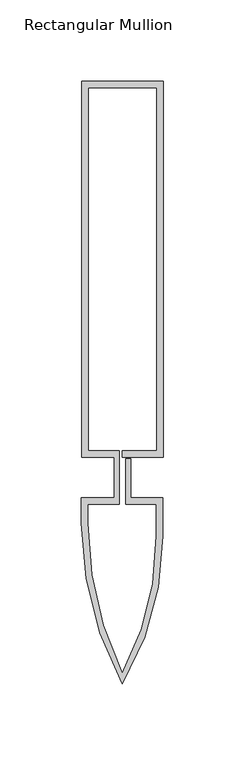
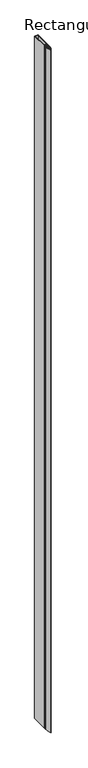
"""IFC4 building model written with IfcOpenShell, lengths in millimetres: member geometry, Rectangular Mullion : Reynaers_CW-50_Mullion-Transom_Vertical_230.5mm_Facecap-05."""

from ifc_helpers import new_model, si_unit, point, frame, frame_2d, origin, place, context, project, spatial, polyline, circle_curve, trimmed, segment, composite_curve, outline, extrude, source, transform, mapped, element, save


def rectangular_mullion_58af8453(model_context):
    return source(origin(), model_context, "Body", "SweptSolid", [
        extrude(outline(composite_curve([segment(polyline([(-24.8004059, 243.0), (25.1995941, 243.0), (25.1995941, 12.5), (0.0, 12.5), (0.0, 16.5), (21.1995941, 16.5), (21.1995941, 239.0), (-20.8004059, 239.0), (-20.8004059, 16.5), (-1.9004059, 16.5), (-1.9004059, -16.5), (-20.994845, -16.5), (-20.994845, -28.2355063)]), True, "CONTINUOUS"), segment(trimmed(circle_curve(frame_2d((191.2554764, -28.2355063)), 212.2503214), [point((-20.994845, -28.2355063))], [point((0.0, -120.2764846))], True, "CARTESIAN"), True, "CONTINUOUS"), segment(trimmed(circle_curve(frame_2d((-158.432152, -36.0547506)), 179.426997), [point((0.0, -120.2764846))], [point((20.994845, -36.0547506))], True, "CARTESIAN"), True, "CONTINUOUS"), segment(polyline([(20.994845, -36.0547506), (20.994845, -16.5), (2.2995941, -16.5), (2.2995941, 11.5), (5.2995941, 11.5), (5.2995941, -12.5), (24.994845, -12.5), (24.994845, -36.0195976)]), True, "CONTINUOUS"), segment(trimmed(circle_curve(frame_2d((-151.2704106, -36.0195976)), 176.2652556), [point((24.994845, -36.0195976))], [point((0.0, -126.5))], False, "CARTESIAN"), True, "CONTINUOUS"), segment(trimmed(circle_curve(frame_2d((181.1469577, -28.111878)), 206.1418028), [point((0.0, -126.5))], [point((-24.994845, -28.111878))], False, "CARTESIAN"), True, "CONTINUOUS"), segment(polyline([(-24.994845, -28.111878), (-24.994845, -12.5), (-4.9004059, -12.5), (-4.9004059, 12.5), (-24.8004059, 12.5), (-24.8004059, 243.0)]), True, "CONTINUOUS")], self_intersect=False)), frame((0.0, 0.0, -10400.0), z_axis=(0.0, 0.0, 1.0), x_axis=(1.0, 0.0, 0.0)), (0.0, 0.0, 1.0), 10400.0),
    ])


if __name__ == "__main__":
    model = new_model("IFC4")
    model_context = context("Model", 3, world=origin())
    ifc_project = project(units=[si_unit("LENGTHUNIT", "METRE", prefix="MILLI")], contexts=[model_context])
    site = spatial("IfcSite", under=ifc_project)
    building = spatial("IfcBuilding", under=site)
    placement = place(None, origin())
    rectangular_mullion_shape = rectangular_mullion_58af8453(model_context)
    element("IfcMember", 1, ObjectType="Rectangular Mullion : Reynaers_CW-50_Mullion-Transom_Vertical_230.5mm_Facecap-05", at=placement, inside=building, context=model_context, shape_type="MappedRepresentation", body=[
        mapped(rectangular_mullion_shape, transform((0.0, 0.0, 0.0), x_axis=(1.0, 0.0, 0.0), y_axis=(0.0, 1.0, 0.0), z_axis=(0.0, 0.0, 1.0))),
    ])
    save(model, "model.ifc")
